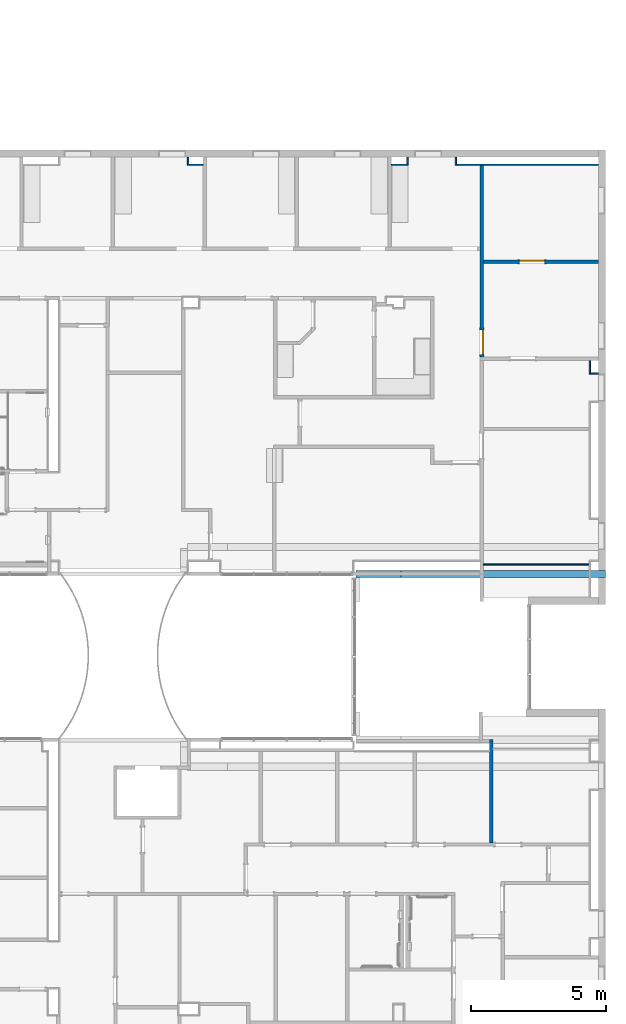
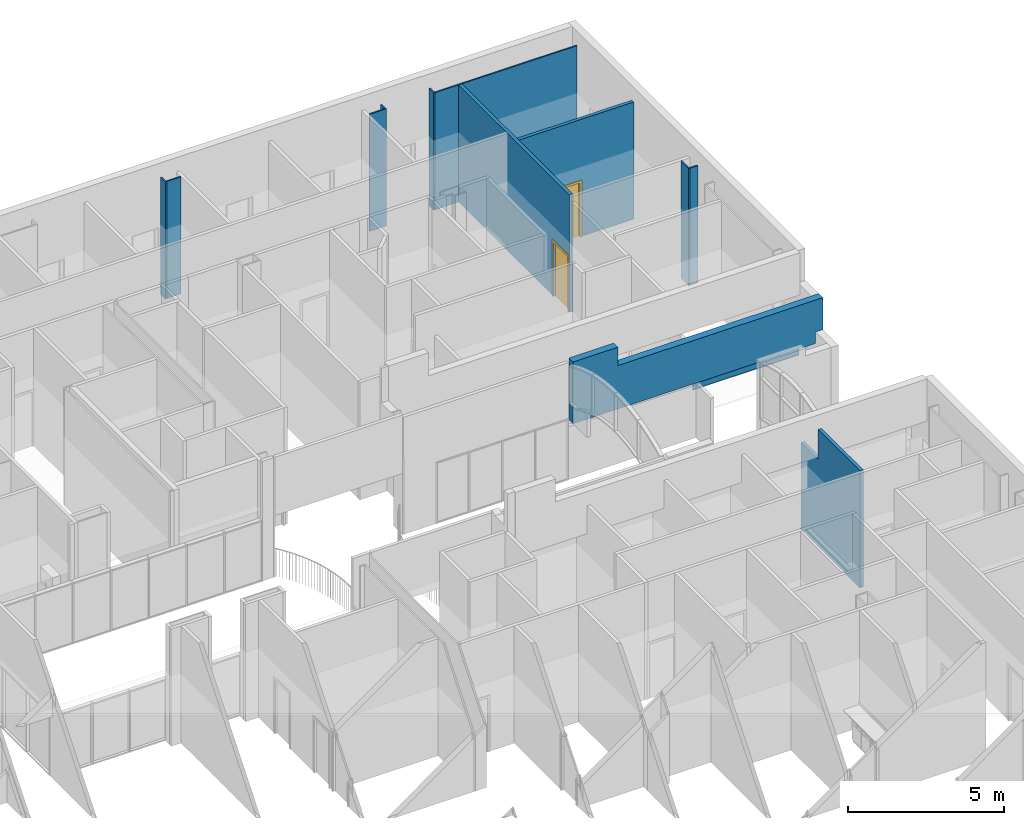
# One storey, part 24 of 45: 13 walls, 2 doors, 2 openings.
"""IFC2X3 building model written with IfcOpenShell, lengths in metres."""

from ifc_helpers import new_model, entity, si_unit, converted_unit, frame, frame_2d, origin, origin_2d_with_axis, place, context, project, spatial, polyline, rectangle, outline, extrude, face_set, surface_model, source, transform, mapped, material, layer, layer_set, layer_usage, type_object, type_shapes, element, fill, save


model = new_model("IFC2X3")

# Units and contexts
model_context = context("Model", 3, precision=1e-09, world=origin())
plan_context = context("Plan", 3, precision=1e-09, world=origin())
ifc_project = project(units=[si_unit("LENGTHUNIT", "METRE"), si_unit("AREAUNIT", "SQUARE_METRE"), si_unit("VOLUMEUNIT", "CUBIC_METRE"), converted_unit("PLANEANGLEUNIT", "DEGREE", entity("IfcRatioMeasure", 0.01745329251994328), si_unit("PLANEANGLEUNIT", "RADIAN"), dimensions=[0, 0, 0, 0, 0, 0, 0]), si_unit("TIMEUNIT", "SECOND")], contexts=[model_context, plan_context])

# Site, building, storey
site_placement = place(None, origin())
site = spatial("IfcSite", under=ifc_project, at=site_placement, Name="Default", CompositionType="ELEMENT")
building_placement = place(site_placement, origin())
building = spatial("IfcBuilding", under=site, at=building_placement, CompositionType="ELEMENT")
storey_placement = place(building_placement, frame((0.0, 0.0, 4.570000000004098)))
storey = spatial("IfcBuildingStorey", under=building, at=storey_placement, Name="Second Floor", CompositionType="ELEMENT", Elevation=4.570000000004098)

# Wall, opening, door
ifc_material_1 = material(Name="Plasterboard")
ifc_layer_1 = layer(ifc_material_1, 0.016)
ifc_material_2 = material(Name="Metal - Stud Layer")
ifc_layer_2 = layer(ifc_material_2, 0.092)
ifc_layer_3 = layer(ifc_material_1, 0.016)
ifc_layer_set_1 = layer_set([ifc_layer_1, ifc_layer_2, ifc_layer_3], Name="Basic Wall:Interior - Partition (92mm Stud)")
ifc_layer_usage_1 = layer_usage(ifc_layer_set_1, "AXIS2", "NEGATIVE", 0.062)
wall_1_placement = place(storey_placement, frame((-4.20800000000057, 42.79443871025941, 0.0), z_axis=(0.0, 0.0, 1.0), x_axis=(0.0, 1.0, 0.0)))
wall_1 = element("IfcWallStandardCase", 1, at=wall_1_placement, inside=storey, material=ifc_layer_usage_1, Name="Basic Wall:Interior - Partition (92mm Stud)", ObjectType="Basic Wall:Interior - Partition (92mm Stud)", context=model_context, shape_type="SweptSolid", body=[
    extrude(rectangle(XDim=7.100000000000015, YDim=0.124, at=frame_2d((3.550000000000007, 0.0), x_axis=(-1.0, 0.0))), origin(), (0.0, 0.0, 1.0), 4.577999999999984),
])
opening_1_placement = place(wall_1_placement, frame((1.014999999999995, 0.06199999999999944, 0.0)))
opening_1 = element("IfcOpeningElement", 2, at=opening_1_placement, cuts=wall_1, Name="M_Single-Flush:0915 x 2134mm:0915 x 2134mm:1", ObjectType="Opening", context=model_context, shape_type="SweptSolid", body=[
    extrude(rectangle(XDim=0.9149999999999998, YDim=2.134, at=frame_2d((1.067, 0.4575), x_axis=(0.0, 1.0))), frame((0.0, 0.0, 0.0), z_axis=(0.0, -1.0, 0.0), x_axis=(0.0, 0.0, 1.0)), (0.0, 0.0, 1.0), 0.124),
])
door_style_1 = type_object("IfcDoorStyle", Name="0915 x 2134mm", ConstructionType="NOTDEFINED", OperationType="SINGLE_SWING_RIGHT", ParameterTakesPrecedence=False, Sizeable=False)
shared_shape_1 = source(origin(), model_context, "Body", "SweptSolid", [
    extrude(outline(polyline([(-0.5335, -1.123999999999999), (0.5334999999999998, -1.123999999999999), (0.5334999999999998, 1.086), (0.4574999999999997, 1.086), (0.4574999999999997, -1.048000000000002), (-0.4574999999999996, -1.048000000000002), (-0.4574999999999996, 1.086), (-0.5335, 1.086), (-0.5335, -1.123999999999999)])), frame((0.4575000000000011, 0.1239999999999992, 1.086), z_axis=(0.0, 1.0, 0.0), x_axis=(1.0, 0.0, 0.0)), (0.0, 0.0, 1.0), 0.02499999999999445),
    extrude(outline(polyline([(-1.123999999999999, -0.5334999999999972), (1.085999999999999, -0.5334999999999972), (1.085999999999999, -0.4575000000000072), (-1.048, -0.4575000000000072), (-1.048, 0.4575000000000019), (1.085999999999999, 0.4575000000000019), (1.085999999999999, 0.5335000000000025), (-1.123999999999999, 0.5335000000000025), (-1.123999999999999, -0.5334999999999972)])), frame((0.4575000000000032, -0.02500000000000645, 1.085999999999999), z_axis=(0.0, 1.0, 0.0), x_axis=(0.0, 0.0, -1.0)), (0.0, 0.0, 1.0), 0.02500000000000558),
    extrude(rectangle(XDim=0.051, YDim=0.9149999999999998, at=origin_2d_with_axis()), frame((0.4575000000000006, 0.09849999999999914, 0.0), z_axis=(0.0, 0.0, 1.0), x_axis=(0.0, 1.0, 0.0)), (0.0, 0.0, 1.0), 2.133999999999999),
])
type_shapes(door_style_1, [shared_shape_1])
door_1_placement = place(opening_1_placement, frame((0.0, 0.0, 0.0), z_axis=(0.0, 0.0, 1.0), x_axis=(-1.0, 0.0, 0.0)))
door_1 = element("IfcDoor", 3, at=door_1_placement, inside=storey, type_object=door_style_1, Name="M_Single-Flush:0915 x 2134mm:0915 x 2134mm", ObjectType="0915 x 2134mm", OverallHeight=2.134, OverallWidth=0.9149999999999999, context=model_context, shape_type="MappedRepresentation", body=[
    mapped(shared_shape_1, transform((0.0, 0.0, 0.0), scale=1.0)),
])
fill(opening_1, door_1)

# Walls
wall_2_placement = place(storey_placement, frame((-3.851975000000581, 28.64443871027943, 0.0), z_axis=(0.0, 0.0, 1.0), x_axis=(0.0, -1.0, 0.0)))
element("IfcWall", 4, at=wall_2_placement, inside=storey, material=ifc_layer_usage_1, Name="Basic Wall:Interior - Partition (92mm Stud)", ObjectType="Basic Wall:Interior - Partition (92mm Stud)", context=model_context, shape_type="SurfaceModel", body=[
    surface_model("IfcFaceBasedSurfaceModel", [(0.0, -0.06199999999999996, 0.0), (0.1240000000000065, -0.06199999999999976, 0.0), (0.406000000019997, -0.06199999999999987, 0.0), (0.4600000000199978, -0.06199999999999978, 0.0), (3.836000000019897, -0.06199999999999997, 0.0), (3.836000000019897, -0.06199999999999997, 4.577999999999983), (1.151342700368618, -0.0619999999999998, 4.577999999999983), (1.151342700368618, -0.0619999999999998, 3.404499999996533), (0.06200000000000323, -0.06199999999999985, 3.404499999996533), (0.06200000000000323, -0.06199999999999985, 2.071499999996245), (0.06200000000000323, -0.06199999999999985, 0.02843658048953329), (0.0, -0.06199999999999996, 0.02843658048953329), (0.0, 0.06200000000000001, 0.0), (3.836000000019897, 0.062, 0.0), (3.836000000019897, 0.062, 4.577999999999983), (1.151342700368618, 0.06200000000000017, 4.577999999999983), (1.151342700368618, 0.06200000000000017, 3.404499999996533), (0.06200000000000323, 0.06200000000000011, 3.404499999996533), (0.06200000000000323, 0.06200000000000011, 0.02843658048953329), (0.0, 0.06200000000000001, 0.02843658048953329)], [face_set([[[0, 1, 2, 3, 4, 5, 6, 7, 8, 9, 10, 11]], [[12, 13, 14, 15, 16, 17, 18, 19]], [[5, 4, 13, 14]], [[4, 3, 2, 1, 0, 12, 13]], [[6, 15, 14, 5]], [[8, 17, 16, 7]], [[10, 11, 19, 18]], [[0, 12, 19, 11]], [[8, 9, 10, 18, 17]], [[7, 16, 15, 6]]])]),
])
ifc_layer_4 = layer(ifc_material_2, 0.038)
ifc_layer_5 = layer(ifc_material_1, 0.016)
ifc_layer_set_2 = layer_set([ifc_layer_4, ifc_layer_5], Name="Basic Wall:Interior - Furring (38 mm Stud)")
ifc_layer_usage_2 = layer_usage(ifc_layer_set_2, "AXIS2", "NEGATIVE", 0.027)
wall_3_placement = place(storey_placement, frame((-5.136000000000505, 49.92143871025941, 0.0)))
element("IfcWallStandardCase", 5, at=wall_3_placement, inside=storey, material=ifc_layer_usage_2, Name="Basic Wall:Interior - Furring (38 mm Stud)", ObjectType="Basic Wall:Interior - Furring (38 mm Stud)", context=model_context, shape_type="SweptSolid", body=[
    extrude(rectangle(XDim=5.248999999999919, YDim=0.05400000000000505, at=frame_2d((2.624499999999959, 0.0), x_axis=(-1.0, 0.0))), origin(), (0.0, 0.0, 1.0), 4.577999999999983),
])

# Wall, opening, door
wall_4_placement = place(storey_placement, frame((0.1129999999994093, 46.3264387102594, 0.0), z_axis=(0.0, 0.0, 1.0), x_axis=(-1.0, 0.0, 0.0)))
wall_4 = element("IfcWallStandardCase", 6, at=wall_4_placement, inside=storey, material=ifc_layer_usage_1, Name="Basic Wall:Interior - Partition (92mm Stud)", ObjectType="Basic Wall:Interior - Partition (92mm Stud)", context=model_context, shape_type="SweptSolid", body=[
    extrude(rectangle(XDim=4.258999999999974, YDim=0.1240000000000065, at=frame_2d((2.129499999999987, 0.0), x_axis=(-1.0, 0.0))), origin(), (0.0, 0.0, 1.0), 4.577999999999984),
])
opening_2_placement = place(wall_4_placement, frame((2.918999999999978, 0.06199999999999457, 0.0)))
opening_2 = element("IfcOpeningElement", 7, at=opening_2_placement, cuts=wall_4, Name="M_Single-Flush:0915 x 2134mm:0915 x 2134mm:1", ObjectType="Opening", context=model_context, shape_type="SweptSolid", body=[
    extrude(rectangle(XDim=0.915, YDim=2.134, at=frame_2d((1.067, 0.4575000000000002), x_axis=(0.0, -1.0))), frame((0.0, 0.0, 0.0), z_axis=(0.0, -1.0, 0.0), x_axis=(0.0, 0.0, 1.0)), (0.0, 0.0, 1.0), 0.124),
])
door_style_2 = type_object("IfcDoorStyle", Name="0915 x 2134mm", ConstructionType="NOTDEFINED", OperationType="SINGLE_SWING_LEFT", ParameterTakesPrecedence=False, Sizeable=False)
shared_shape_2 = source(origin(), model_context, "Body", "SweptSolid", [
    extrude(outline(polyline([(-0.5335, -1.123999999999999), (0.5334999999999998, -1.123999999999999), (0.5334999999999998, 1.086), (0.4574999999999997, 1.086), (0.4574999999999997, -1.048000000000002), (-0.4574999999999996, -1.048000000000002), (-0.4574999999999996, 1.086), (-0.5335, 1.086), (-0.5335, -1.123999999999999)])), frame((0.4575000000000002, 0.1489999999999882, 1.086), z_axis=(0.0, -1.0, 0.0), x_axis=(-1.0, 0.0, 0.0)), (0.0, 0.0, 1.0), 0.02499999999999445),
    extrude(outline(polyline([(-1.123999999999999, -0.5334999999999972), (1.085999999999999, -0.5334999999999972), (1.085999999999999, -0.4575000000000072), (-1.048, -0.4575000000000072), (-1.048, 0.4575000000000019), (1.085999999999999, 0.4575000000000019), (1.085999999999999, 0.5335000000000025), (-1.123999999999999, 0.5335000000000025), (-1.123999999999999, -0.5334999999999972)])), frame((0.4574999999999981, 0.0, 1.085999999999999), z_axis=(0.0, -1.0, 0.0), x_axis=(0.0, 0.0, -1.0)), (0.0, 0.0, 1.0), 0.02500000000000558),
    extrude(rectangle(XDim=0.9149999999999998, YDim=0.051, at=origin_2d_with_axis()), frame((0.4575000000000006, 0.09849999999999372, 0.0)), (0.0, 0.0, 1.0), 2.133999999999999),
])
type_shapes(door_style_2, [shared_shape_2])
door_2_placement = place(opening_2_placement, frame((0.0, 0.0, 0.0), z_axis=(0.0, 0.0, 1.0), x_axis=(-1.0, 0.0, 0.0)))
door_2 = element("IfcDoor", 8, at=door_2_placement, inside=storey, type_object=door_style_2, Name="M_Single-Flush:0915 x 2134mm:0915 x 2134mm", ObjectType="0915 x 2134mm", OverallHeight=2.134, OverallWidth=0.9149999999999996, context=model_context, shape_type="MappedRepresentation", body=[
    mapped(shared_shape_2, transform((0.0, 0.0, 0.0), scale=1.0)),
])
fill(opening_2, door_2)

# Walls
wall_5_placement = place(storey_placement, frame((-7.556000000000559, 49.92143871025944, 0.0)))
element("IfcWallStandardCase", 9, at=wall_5_placement, inside=storey, material=ifc_layer_usage_2, Name="Basic Wall:Interior - Furring (38 mm Stud)", ObjectType="Basic Wall:Interior - Furring (38 mm Stud)", context=model_context, shape_type="SweptSolid", body=[
    extrude(rectangle(XDim=0.6250000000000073, YDim=0.05400000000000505, at=frame_2d((0.3125000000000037, 0.0), x_axis=(-1.0, 0.0))), origin(), (0.0, 0.0, 1.0), 4.577999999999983),
])
wall_6_placement = place(storey_placement, frame((-0.1760000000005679, 42.19143871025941, 0.0)))
element("IfcWallStandardCase", 10, at=wall_6_placement, inside=storey, material=ifc_layer_usage_2, Name="Basic Wall:Interior - Furring (38 mm Stud)", ObjectType="Basic Wall:Interior - Furring (38 mm Stud)", context=model_context, shape_type="SweptSolid", body=[
    extrude(rectangle(XDim=0.2889999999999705, YDim=0.05400000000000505, at=frame_2d((0.1444999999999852, 0.0), x_axis=(-1.0, 0.0))), origin(), (0.0, 0.0, 1.0), 4.577999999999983),
])
wall_7_placement = place(storey_placement, frame((-0.2030000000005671, 42.67043871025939, 0.0), z_axis=(0.0, 0.0, 1.0), x_axis=(0.0, -1.0, 0.0)))
element("IfcWallStandardCase", 11, at=wall_7_placement, inside=storey, material=ifc_layer_usage_2, Name="Basic Wall:Interior - Furring (38 mm Stud)", ObjectType="Basic Wall:Interior - Furring (38 mm Stud)", context=model_context, shape_type="SweptSolid", body=[
    extrude(rectangle(XDim=0.5059999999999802, YDim=0.05400000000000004, at=frame_2d((0.2529999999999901, 0.0), x_axis=(-1.0, 0.0))), origin(), (0.0, 0.0, 1.0), 4.577999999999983),
])
wall_8_placement = place(storey_placement, frame((-5.163000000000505, 50.20299999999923, 0.0), z_axis=(0.0, 0.0, 1.0), x_axis=(0.0, -1.0, 0.0)))
element("IfcWallStandardCase", 12, at=wall_8_placement, inside=storey, material=ifc_layer_usage_2, Name="Basic Wall:Interior - Furring (38 mm Stud)", ObjectType="Basic Wall:Interior - Furring (38 mm Stud)", context=model_context, shape_type="SweptSolid", body=[
    extrude(rectangle(XDim=0.3085612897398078, YDim=0.05400000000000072, at=frame_2d((0.1542806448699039, 0.0), x_axis=(-1.0, 0.0))), origin(), (0.0, 0.0, 1.0), 4.577999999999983),
])
wall_9_placement = place(storey_placement, frame((-15.0559750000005, 49.9214387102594, 0.0)))
element("IfcWallStandardCase", 13, at=wall_9_placement, inside=storey, material=ifc_layer_usage_2, Name="Basic Wall:Interior - Furring (38 mm Stud)", ObjectType="Basic Wall:Interior - Furring (38 mm Stud)", context=model_context, shape_type="SweptSolid", body=[
    extrude(rectangle(XDim=0.5319749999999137, YDim=0.05400000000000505, at=frame_2d((0.2659874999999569, 0.0), x_axis=(-1.0, 0.0))), origin(), (0.0, 0.0, 1.0), 4.577999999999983),
])
wall_10_placement = place(storey_placement, frame((-6.958000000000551, 49.94843871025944, 0.0), z_axis=(0.0, 0.0, 1.0), x_axis=(0.0, 1.0, 0.0)))
element("IfcWallStandardCase", 14, at=wall_10_placement, inside=storey, material=ifc_layer_usage_2, Name="Basic Wall:Interior - Furring (38 mm Stud)", ObjectType="Basic Wall:Interior - Furring (38 mm Stud)", context=model_context, shape_type="SweptSolid", body=[
    extrude(rectangle(XDim=0.2545612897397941, YDim=0.05400000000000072, at=frame_2d((0.127280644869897, 0.0), x_axis=(-1.0, 0.0))), origin(), (0.0, 0.0, 1.0), 4.577999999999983),
])
wall_11_placement = place(storey_placement, frame((-15.0829750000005, 50.20299999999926, 0.0), z_axis=(0.0, 0.0, 1.0), x_axis=(0.0, -1.0, 0.0)))
element("IfcWallStandardCase", 15, at=wall_11_placement, inside=storey, material=ifc_layer_usage_2, Name="Basic Wall:Interior - Furring (38 mm Stud)", ObjectType="Basic Wall:Interior - Furring (38 mm Stud)", context=model_context, shape_type="SweptSolid", body=[
    extrude(rectangle(XDim=0.3085612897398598, YDim=0.05400000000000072, at=frame_2d((0.1542806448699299, 0.0), x_axis=(-1.0, 0.0))), origin(), (0.0, 0.0, 1.0), 4.577999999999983),
])
ifc_layer_usage_3 = layer_usage(ifc_layer_set_2, "AXIS2", "POSITIVE", -0.027)
wall_12_placement = place(storey_placement, frame((-4.146000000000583, 35.11349999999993, 1.55)))
element("IfcWall", 16, at=wall_12_placement, inside=storey, material=ifc_layer_usage_3, Name="Basic Wall:Interior - Furring (38 mm Stud)", ObjectType="Basic Wall:Interior - Furring (38 mm Stud)", context=model_context, shape_type="SurfaceModel", body=[
    surface_model("IfcFaceBasedSurfaceModel", [(3.916000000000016, -0.02700000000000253, 1.816499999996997), (0.0, -0.02700000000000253, 1.816499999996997), (0.0, -0.02700000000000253, 0.05700000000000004), (3.91499999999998, -0.02700000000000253, 0.05700000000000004), (3.91499999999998, -0.02700000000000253, 0.0), (3.916000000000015, -0.02700000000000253, 0.0), (3.916000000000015, 0.02699999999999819, 0.0), (3.916000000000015, 0.02699999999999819, 1.816499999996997), (0.0, 0.02699999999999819, 1.816499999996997), (0.0, 0.02699999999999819, 0.0), (3.91499999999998, 0.01500000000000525, 0.0), (0.0, 0.01499999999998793, 0.0), (0.0, 0.01499999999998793, 0.05700000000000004), (3.91499999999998, 0.01500000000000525, 0.05700000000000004)], [face_set([[[0, 1, 2, 3, 4, 5]], [[6, 7, 8, 9]], [[9, 6, 5, 4, 10, 11]], [[1, 8, 7, 0]], [[12, 13, 3, 2]], [[13, 12, 11, 10]], [[13, 3, 4, 10]], [[0, 5, 6, 7]], [[1, 2, 12, 11, 9, 8]]])]),
])
ifc_material_3 = material(Name="Insulation - Insulated Panel")
ifc_layer_6 = layer(ifc_material_3, 0.042)
ifc_material_4 = material(Name="Metal - Firring")
ifc_layer_7 = layer(ifc_material_4, 0.038)
ifc_material_5 = material(Name="Wood - Sheathing - plywood")
ifc_layer_8 = layer(ifc_material_5, 0.019)
ifc_layer_9 = layer(ifc_material_2, 0.152)
ifc_layer_10 = layer(ifc_material_1, 0.016)
ifc_layer_set_3 = layer_set([ifc_layer_6, ifc_layer_7, ifc_layer_8, ifc_layer_9, ifc_layer_10], Name="Basic Wall:Exterior - Insul Panel on Mtl. Stud")
ifc_layer_usage_4 = layer_usage(ifc_layer_set_3, "AXIS2", "NEGATIVE", 0.1335)
wall_13_placement = place(storey_placement, frame((0.3799999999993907, 34.76349999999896, 2.191499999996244), z_axis=(0.0, 0.0, 1.0), x_axis=(-1.0, 0.0, 0.0)))
element("IfcWall", 17, at=wall_13_placement, inside=storey, material=ifc_layer_usage_4, Name="Basic Wall:Exterior - Insul Panel on Mtl. Stud", ObjectType="Basic Wall:Exterior - Insul Panel on Mtl. Stud", context=model_context, shape_type="SurfaceModel", body=[
    surface_model("IfcFaceBasedSurfaceModel", [(0.2670000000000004, -0.1335, 0.0), (9.237726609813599, -0.1335, 0.0), (9.237726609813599, -0.1335, 2.414974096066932), (7.576241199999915, -0.1335, 2.414977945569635), (7.576241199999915, -0.1335, 1.697000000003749), (0.2669999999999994, -0.1335, 1.697000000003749), (0.0, -0.1335, 1.697000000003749), (0.0, -0.1335, 0.4485000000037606), (0.2670000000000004, -0.1335, 0.4485000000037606), (0.2669999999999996, 0.1335, 0.0), (0.2670000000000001, 0.1335, 0.4485000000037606), (0.0, 0.1335, 0.4485000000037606), (0.0, 0.1335, 1.697000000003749), (7.576241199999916, 0.1335, 1.697000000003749), (7.576241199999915, 0.1335, 2.414977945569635), (9.237726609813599, 0.1335, 2.414974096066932), (9.237726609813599, 0.1335, 0.0)], [face_set([[[0, 1, 2, 3, 4, 5, 6, 7, 8]], [[9, 10, 11, 12, 13, 14, 15, 16]], [[0, 9, 10, 8]], [[7, 11, 12, 6]], [[1, 0, 9, 16]], [[2, 1, 16, 15]], [[6, 12, 13, 4, 5]], [[7, 11, 10, 8]], [[3, 14, 15, 2]], [[4, 13, 14, 3]]])]),
])

save(model, "model.ifc")
